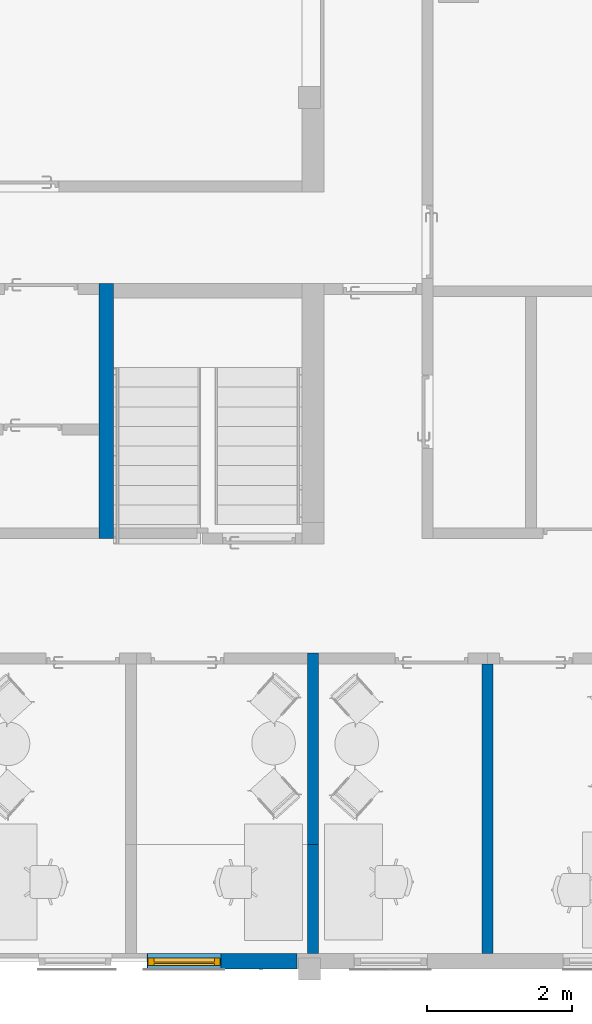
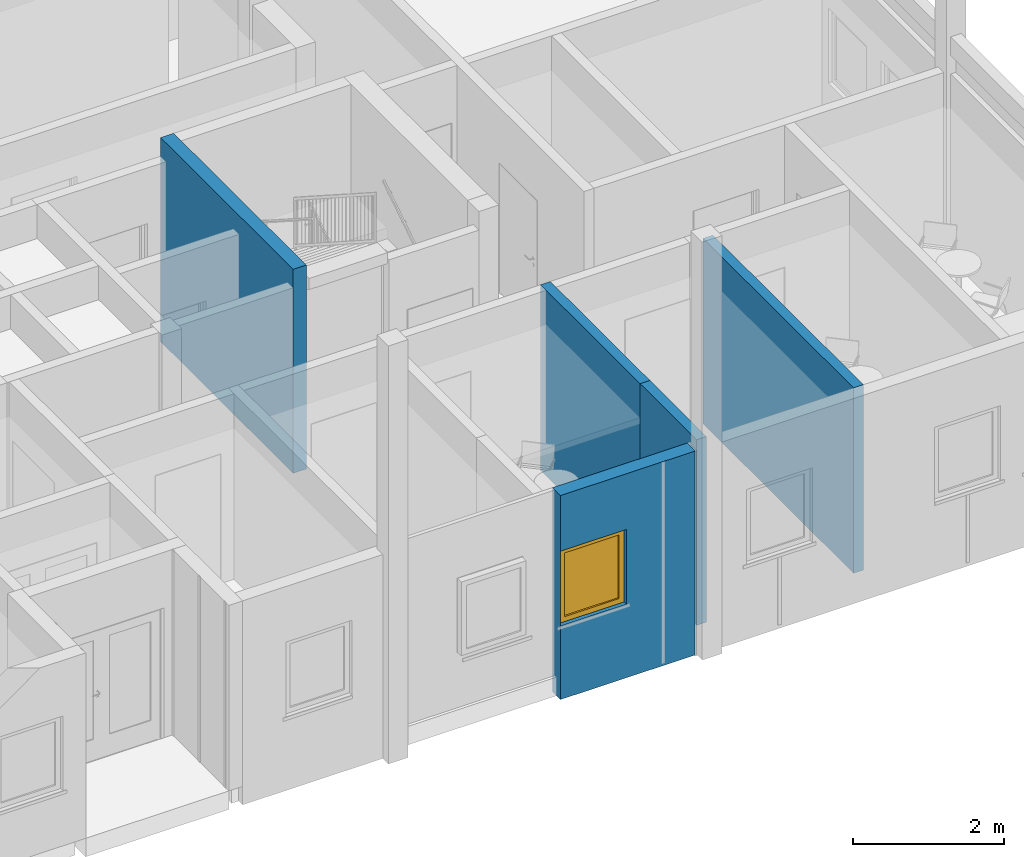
# One storey, part 15 of 58: 5 walls, 1 window, 2 openings.
"""IFC2X3 building model written with IfcOpenShell, lengths in millimetres."""

from ifc_helpers import new_model, entity, si_unit, converted_unit, derived_unit, direction, frame, frame_2d, origin, origin_2d_with_axis, place, context, subcontext, project, spatial, polyline, rectangle, outline, extrude, source, transform, mapped, material, material_list, layer, layer_set, layer_usage, type_object, type_shapes, element, fill, save


model = new_model("IFC2X3")

# Units and contexts
model_context = context("Model", 3, precision=0.01, world=origin(), true_north=direction((0.7716245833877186, 0.6360782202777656)))
body_context = subcontext(model_context, "Body", "Model", "MODEL_VIEW")
ifc_project = project(units=[si_unit("LENGTHUNIT", "METRE", prefix="MILLI"), si_unit("AREAUNIT", "SQUARE_METRE"), converted_unit("PLANEANGLEUNIT", "DEGREE", entity("IfcPlaneAngleMeasure", 0.017453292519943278), si_unit("PLANEANGLEUNIT", "RADIAN"), dimensions=[0, 0, 0, 0, 0, 0, 0]), derived_unit("THERMALTRANSMITTANCEUNIT", [(si_unit("MASSUNIT", "GRAM", prefix="KILO"), 1), (si_unit("THERMODYNAMICTEMPERATUREUNIT", "KELVIN"), -1), (si_unit("TIMEUNIT", "SECOND"), -3)])], contexts=[model_context])

# Site, building, storey
site_placement = place(None, origin())
site = spatial("IfcSite", under=ifc_project, at=site_placement, Name="Default", CompositionType="ELEMENT")
building_placement = place(site_placement, origin())
building = spatial("IfcBuilding", under=site, at=building_placement, CompositionType="ELEMENT")
storey_placement = place(building_placement, frame((0.0, 0.0, 31140.0)))
storey = spatial("IfcBuildingStorey", under=building, at=storey_placement, Name="PLAN U1", CompositionType="ELEMENT", Elevation=31140.000000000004)

# Wall, openings, window
ifc_material_1 = material(Name="Beige Fasadeplater")
ifc_layer_1 = layer(ifc_material_1, 10.0)
ifc_material_2 = material(Name="Eksist. vegg")
ifc_layer_2 = layer(ifc_material_2, 190.00000000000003)
ifc_material_3 = material(Name="Gips")
ifc_layer_3 = layer(ifc_material_3, 12.0)
ifc_layer_set_1 = layer_set([ifc_layer_1, ifc_layer_2, ifc_layer_3], Name="Basic Wall:230 Eksist. yttervegg 200 mm")
ifc_layer_usage_1 = layer_usage(ifc_layer_set_1, "AXIS2", "POSITIVE", -106.0)
wall_type_1 = type_object("IfcWallType", Name="Basic Wall:230 Eksist. yttervegg 200 mm", PredefinedType="STANDARD", material=ifc_layer_set_1)
wall_1_placement = place(storey_placement, frame((268484.5564872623, 53421.255550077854, -300.0)))
wall_1 = element("IfcWallStandardCase", 1, at=wall_1_placement, inside=storey, type_object=wall_type_1, material=ifc_layer_usage_1, Name="Basic Wall:230 Eksist. yttervegg 200 mm", ObjectType="Basic Wall:230 Eksist. yttervegg 200 mm", context=body_context, shape_type="SweptSolid", body=[
    extrude(rectangle(XDim=2061.3679592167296, YDim=212.00000000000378, at=frame_2d((1030.6839796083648, -7.105427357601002e-15), x_axis=(-1.0, 0.0))), origin(), (0.0, 0.0, 1.0), 3299.999999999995),
])
opening_1_placement = place(wall_1_placement, frame((3.0, -106.0, 1190.0)))
opening_1 = element("IfcOpeningElement", 2, at=opening_1_placement, cuts=wall_1, Name="234-Åpningsbart:10x12M Eks.:1", ObjectType="Opening", context=body_context, shape_type="SweptSolid", body=[
    extrude(rectangle(XDim=1209.9999999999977, YDim=1010.0000000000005, at=frame_2d((604.9999999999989, 505.0000000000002), x_axis=(1.0, 0.0))), frame((0.0, 0.0, 0.0), z_axis=(0.0, 1.0, 0.0), x_axis=(0.0, 0.0, 1.0)), (0.0, 0.0, 1.0), 212.0),
])
opening_2_placement = place(wall_1_placement, frame((-268484.5564872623, -53421.255550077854, 300.0)))
element("IfcOpeningElement", 3, at=opening_2_placement, cuts=wall_1, Name="Basic Wall:230 Eksist. yttervegg 200 mm", ObjectType="Opening", context=body_context, shape_type="SweptSolid", body=[
    extrude(rectangle(XDim=1209.9999999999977, YDim=1009.9999999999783, at=frame_2d((1.7337242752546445e-11, 2.1600499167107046e-12), x_axis=(0.0, 1.0))), frame((268992.5564872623, 52003.255550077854, 1495.0), z_axis=(0.0, 1.0, 0.0), x_axis=(-1.0, 0.0, 0.0)), (0.0, 0.0, 1.0), 3048.0),
])
ifc_material_4 = material(Name="Vinduskarm")
ifc_material_5 = material(Name="NO_Glass")
ifc_material_list = material_list([ifc_material_4, ifc_material_5])
window_style = type_object("IfcWindowStyle", Name="234-Åpningsbart:10x12M Eks.", ConstructionType="NOTDEFINED", OperationType="NOTDEFINED", ParameterTakesPrecedence=False, Sizeable=False, material=ifc_material_list)
shared_shape = source(origin(), body_context, "Body", "SweptSolid", [
    extrude(outline(polyline([(-555.0, -455.0), (555.0, -455.0), (555.0, 455.0), (-555.0, 455.0), (-555.0, -455.0)]), holes=[polyline([(515.0, -415.0), (-515.0, -415.0), (-515.0, 415.0), (515.0, 415.0), (515.0, -415.0)])]), frame((505.0, 62.0, 605.0), z_axis=(0.0, 1.0, 0.0), x_axis=(0.0, 0.0, 1.0)), (0.0, 0.0, 1.0), 100.0),
    extrude(rectangle(XDim=25.0, YDim=830.0000000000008, at=origin_2d_with_axis()), frame((505.0, 124.5000000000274, 90.0), z_axis=(0.0, 0.0, 1.0), x_axis=(0.0, 1.0, 0.0)), (0.0, 0.0, 1.0), 1030.0000000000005),
    extrude(outline(polyline([(-595.0, -495.0), (595.0, -495.0), (595.0, 495.0), (-595.0, 495.0), (-595.0, -495.0)]), holes=[polyline([(555.0, -455.0), (-555.0, -455.0), (-555.0, 455.0), (555.0, 455.0), (555.0, -455.0)])]), frame((505.0, 62.0, 605.0), z_axis=(0.0, 1.0, 0.0), x_axis=(0.0, 0.0, 1.0)), (0.0, 0.0, 1.0), 100.0),
])
type_shapes(window_style, [shared_shape])
window_placement = place(opening_1_placement, frame((1010.0, 212.0, 0.0), z_axis=(0.0, 0.0, 1.0), x_axis=(-1.0, 0.0, 0.0)))
window = element("IfcWindow", 4, at=window_placement, inside=storey, type_object=window_style, material=ifc_material_list, Name="234-Åpningsbart:10x12M Eks.", ObjectType="234-Åpningsbart:10x12M Eks.", OverallHeight=1209.9999999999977, OverallWidth=1010.000000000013, context=body_context, shape_type="MappedRepresentation", body=[
    mapped(shared_shape, transform((0.0, 0.0, 0.0), scale=1.0)),
])
fill(opening_1, window)

# Walls
ifc_layer_4 = layer(ifc_material_2, 150.0)
ifc_layer_set_2 = layer_set([ifc_layer_4], Name="Basic Wall:240 Eksist. Innervegg 150 mm")
ifc_layer_usage_2 = layer_usage(ifc_layer_set_2, "AXIS2", "NEGATIVE", 75.0)
wall_type_2 = type_object("IfcWallType", Name="Basic Wall:240 Eksist. Innervegg 150 mm", PredefinedType="STANDARD", material=ifc_layer_set_2)
wall_2_placement = place(storey_placement, frame((273167.924446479, 53527.25555007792, 0.0), z_axis=(0.0, 0.0, 1.0), x_axis=(0.0, 1.0, 0.0)))
element("IfcWallStandardCase", 5, at=wall_2_placement, inside=storey, type_object=wall_type_2, material=ifc_layer_usage_2, Name="Basic Wall:240 Eksist. Innervegg 150 mm", ObjectType="Basic Wall:240 Eksist. Innervegg 150 mm", context=body_context, shape_type="SweptSolid", body=[
    extrude(rectangle(XDim=3987.9999999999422, YDim=150.00000000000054, at=frame_2d((1993.9999999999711, 0.0), x_axis=(-1.0, 0.0))), origin(), (0.0, 0.0, 1.0), 2999.9999999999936),
])
ifc_layer_usage_3 = layer_usage(ifc_layer_set_2, "AXIS2", "NEGATIVE", 75.0)
wall_3_placement = place(storey_placement, frame((270767.924446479, 55027.25555007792, 0.0), z_axis=(0.0, 0.0, 1.0), x_axis=(0.0, 1.0, 0.0)))
element("IfcWallStandardCase", 6, at=wall_3_placement, inside=storey, type_object=wall_type_2, material=ifc_layer_usage_3, Name="Basic Wall:240 Eksist. Innervegg 150 mm", ObjectType="Basic Wall:240 Eksist. Innervegg 150 mm", context=body_context, shape_type="SweptSolid", body=[
    extrude(rectangle(XDim=2637.9999999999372, YDim=150.00000000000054, at=frame_2d((1318.9999999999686, 0.0), x_axis=(-1.0, 0.0))), origin(), (0.0, 0.0, 1.0), 2999.9999999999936),
])
ifc_layer_usage_4 = layer_usage(ifc_layer_set_2, "AXIS2", "NEGATIVE", 75.0)
wall_4_placement = place(storey_placement, frame((270767.924446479, 55027.25555007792, 0.0), z_axis=(0.0, 0.0, 1.0), x_axis=(0.0, -1.0, 0.0)))
element("IfcWallStandardCase", 7, at=wall_4_placement, inside=storey, type_object=wall_type_2, material=ifc_layer_usage_4, Name="Basic Wall:240 Eksist. Innervegg 150 mm", ObjectType="Basic Wall:240 Eksist. Innervegg 150 mm", context=body_context, shape_type="SweptSolid", body=[
    extrude(rectangle(XDim=1499.9999999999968, YDim=150.00000000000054, at=frame_2d((749.9999999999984, 0.0), x_axis=(-1.0, 0.0))), origin(), (0.0, 0.0, 1.0), 2999.9999999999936),
])
ifc_layer_5 = layer(ifc_material_2, 200.0)
ifc_layer_set_3 = layer_set([ifc_layer_5], Name="Basic Wall:240 Eksist. innervegg 200 mm")
ifc_layer_usage_5 = layer_usage(ifc_layer_set_3, "AXIS2", "NEGATIVE", 100.0)
wall_type_3 = type_object("IfcWallType", Name="Basic Wall:240 Eksist. innervegg 200 mm", PredefinedType="STANDARD", material=ifc_layer_set_3)
wall_5_placement = place(storey_placement, frame((267917.924446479, 62754.50163955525, 0.0), z_axis=(0.0, 0.0, 1.0), x_axis=(0.0, -1.0, 0.0)))
element("IfcWallStandardCase", 8, at=wall_5_placement, inside=storey, type_object=wall_type_3, material=ifc_layer_usage_5, Name="Basic Wall:240 Eksist. innervegg 200 mm", ObjectType="Basic Wall:240 Eksist. innervegg 200 mm", context=body_context, shape_type="SweptSolid", body=[
    extrude(rectangle(XDim=3514.2460894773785, YDim=200.00000000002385, at=frame_2d((1757.1230447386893, 0.0), x_axis=(-1.0, 0.0))), origin(), (0.0, 0.0, 1.0), 3299.999999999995),
])

save(model, "model.ifc")
